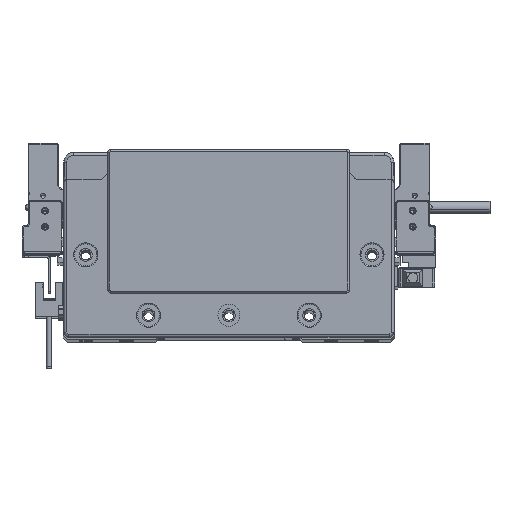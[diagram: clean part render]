
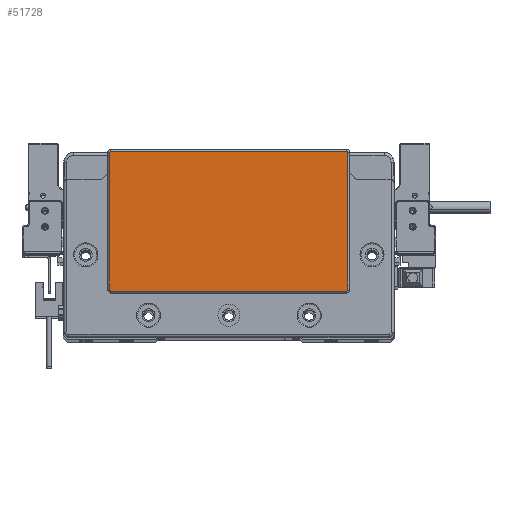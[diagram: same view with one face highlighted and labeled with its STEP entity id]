
A CAD part, top view. The second image highlights one B-rep face of the part: STEP entity #51728.
In plain terms, the highlighted planar face has unit normal (0, 0, 1) as drawn and (0, 0, -1) by its records, which use the part's own axes.
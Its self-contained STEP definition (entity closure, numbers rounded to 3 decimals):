
#2772 = CARTESIAN_POINT ( 'NONE',  ( -59.25, 45.3, -2. ) ) ;
#6481 = CARTESIAN_POINT ( 'NONE',  ( 59.25, -23.3, -2. ) ) ;
#7996 = AXIS2_PLACEMENT_3D ( 'NONE', #81340, #82349, #65275 ) ;
#9743 = DIRECTION ( 'NONE',  ( -1., 0., 0. ) ) ;
#12964 = EDGE_CURVE ( 'NONE', #85182, #69080, #16419, .T. ) ;
#13303 = DIRECTION ( 'NONE',  ( 0., 0., -1. ) ) ;
#13988 = CARTESIAN_POINT ( 'NONE',  ( 0., 0., -2. ) ) ;
#15783 = EDGE_CURVE ( 'NONE', #50756, #40617, #43515, .T. ) ;
#16419 = LINE ( 'NONE', #47080, #62982 ) ;
#16552 = CARTESIAN_POINT ( 'NONE',  ( 58.75, -23.3, -2. ) ) ;
#17340 = FACE_OUTER_BOUND ( 'NONE', #72989, .T. ) ;
#19411 = DIRECTION ( 'NONE',  ( 0., 1., 0. ) ) ;
#21659 = CIRCLE ( 'NONE', #28101, 0.5 ) ;
#21833 = DIRECTION ( 'NONE',  ( -1., 0., 0. ) ) ;
#22404 = CIRCLE ( 'NONE', #7996, 0.5 ) ;
#24268 = CARTESIAN_POINT ( 'NONE',  ( -58.75, 45.8, -2. ) ) ;
#24392 = DIRECTION ( 'NONE',  ( -1., 0., 0. ) ) ;
#26157 = VECTOR ( 'NONE', #85077, 1000. ) ;
#26664 = DIRECTION ( 'NONE',  ( -1., 0., 0. ) ) ;
#28101 = AXIS2_PLACEMENT_3D ( 'NONE', #36900, #13303, #21833 ) ;
#29082 = DIRECTION ( 'NONE',  ( 0., 0., -1. ) ) ;
#31196 = EDGE_CURVE ( 'NONE', #40617, #80548, #21659, .T. ) ;
#31347 = EDGE_CURVE ( 'NONE', #74350, #50756, #92311, .T. ) ;
#32020 = AXIS2_PLACEMENT_3D ( 'NONE', #16552, #70327, #69838 ) ;
#33088 = AXIS2_PLACEMENT_3D ( 'NONE', #13988, #29082, #24392 ) ;
#33992 = CARTESIAN_POINT ( 'NONE',  ( -59.25, 45.3, -2. ) ) ;
#36032 = CARTESIAN_POINT ( 'NONE',  ( -58.75, -23.8, -2. ) ) ;
#36169 = CARTESIAN_POINT ( 'NONE',  ( -58.75, -23.8, -2. ) ) ;
#36900 = CARTESIAN_POINT ( 'NONE',  ( -58.75, 45.3, -2. ) ) ;
#37264 = CARTESIAN_POINT ( 'NONE',  ( 59.25, 45.3, -2. ) ) ;
#40617 = VERTEX_POINT ( 'NONE', #2772 ) ;
#41357 = ORIENTED_EDGE ( 'NONE', *, *, #31196, .T. ) ;
#43515 = LINE ( 'NONE', #33992, #54632 ) ;
#47080 = CARTESIAN_POINT ( 'NONE',  ( 59.25, -23.3, -2. ) ) ;
#47872 = CARTESIAN_POINT ( 'NONE',  ( 58.75, 45.8, -2. ) ) ;
#50756 = VERTEX_POINT ( 'NONE', #63067 ) ;
#51728 = ADVANCED_FACE ( 'NONE', ( #17340 ), #74794, .T. ) ;
#52634 = ORIENTED_EDGE ( 'NONE', *, *, #31347, .T. ) ;
#54456 = DIRECTION ( 'NONE',  ( 0., 0., -1. ) ) ;
#54632 = VECTOR ( 'NONE', #19411, 1000. ) ;
#54763 = CARTESIAN_POINT ( 'NONE',  ( 58.75, 45.8, -2. ) ) ;
#55427 = ORIENTED_EDGE ( 'NONE', *, *, #15783, .T. ) ;
#62970 = LINE ( 'NONE', #47872, #26157 ) ;
#62982 = VECTOR ( 'NONE', #77729, 1000. ) ;
#63067 = CARTESIAN_POINT ( 'NONE',  ( -59.25, -23.3, -2. ) ) ;
#64125 = ORIENTED_EDGE ( 'NONE', *, *, #90728, .T. ) ;
#65275 = DIRECTION ( 'NONE',  ( -1., 0., 0. ) ) ;
#66472 = EDGE_CURVE ( 'NONE', #67731, #74350, #67350, .T. ) ;
#66894 = ORIENTED_EDGE ( 'NONE', *, *, #68336, .T. ) ;
#67350 = LINE ( 'NONE', #36169, #67566 ) ;
#67566 = VECTOR ( 'NONE', #26664, 1000. ) ;
#67706 = ORIENTED_EDGE ( 'NONE', *, *, #83813, .T. ) ;
#67731 = VERTEX_POINT ( 'NONE', #94916 ) ;
#68336 = EDGE_CURVE ( 'NONE', #80548, #82436, #62970, .T. ) ;
#69080 = VERTEX_POINT ( 'NONE', #6481 ) ;
#69838 = DIRECTION ( 'NONE',  ( -1., 0., 0. ) ) ;
#70327 = DIRECTION ( 'NONE',  ( 0., 0., -1. ) ) ;
#72989 = EDGE_LOOP ( 'NONE', ( #87977, #64125, #98567, #52634, #55427, #41357, #66894, #67706 ) ) ;
#74350 = VERTEX_POINT ( 'NONE', #36032 ) ;
#74794 = PLANE ( 'NONE',  #33088 ) ;
#77590 = CARTESIAN_POINT ( 'NONE',  ( -58.75, -23.3, -2. ) ) ;
#77729 = DIRECTION ( 'NONE',  ( 0., -1., 0. ) ) ;
#78579 = CIRCLE ( 'NONE', #32020, 0.5 ) ;
#80548 = VERTEX_POINT ( 'NONE', #24268 ) ;
#81340 = CARTESIAN_POINT ( 'NONE',  ( 58.75, 45.3, -2. ) ) ;
#82349 = DIRECTION ( 'NONE',  ( 0., 0., -1. ) ) ;
#82436 = VERTEX_POINT ( 'NONE', #54763 ) ;
#83813 = EDGE_CURVE ( 'NONE', #82436, #85182, #22404, .T. ) ;
#85077 = DIRECTION ( 'NONE',  ( 1., 0., 0. ) ) ;
#85182 = VERTEX_POINT ( 'NONE', #37264 ) ;
#87977 = ORIENTED_EDGE ( 'NONE', *, *, #12964, .T. ) ;
#90728 = EDGE_CURVE ( 'NONE', #69080, #67731, #78579, .T. ) ;
#92311 = CIRCLE ( 'NONE', #98680, 0.5 ) ;
#94916 = CARTESIAN_POINT ( 'NONE',  ( 58.75, -23.8, -2. ) ) ;
#98567 = ORIENTED_EDGE ( 'NONE', *, *, #66472, .T. ) ;
#98680 = AXIS2_PLACEMENT_3D ( 'NONE', #77590, #54456, #9743 ) ;
